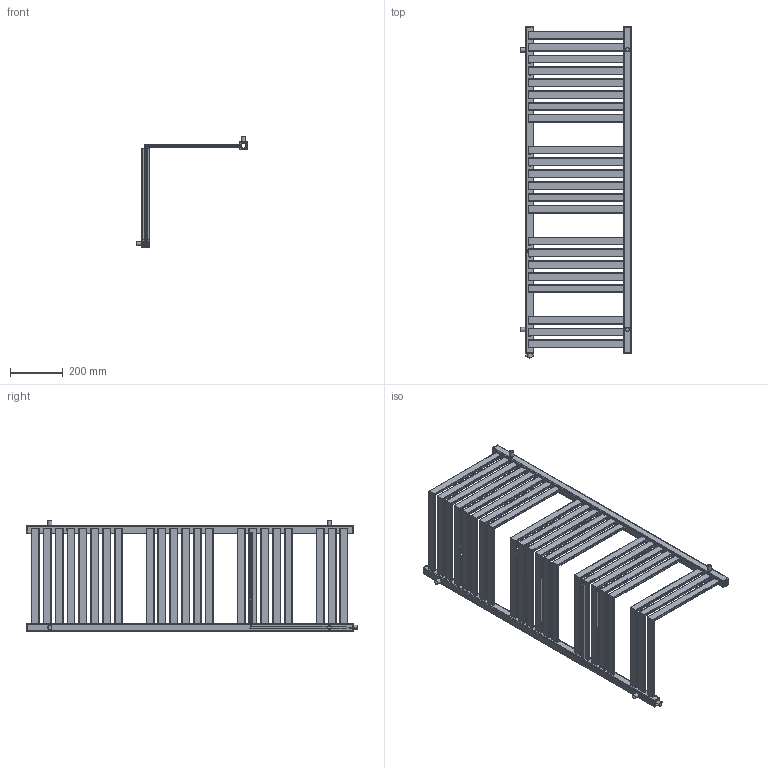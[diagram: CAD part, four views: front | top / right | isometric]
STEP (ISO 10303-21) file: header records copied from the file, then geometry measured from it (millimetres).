
FILE_DESCRIPTION( ( 'Unknown' ), '1' );
FILE_NAME( 'D:/Alplast sp. j/Witryna zespoBu - Projekty/Archiwum/Grzejniki Archiwum/Projekty/DESIGN PROGRAM/CORNER ALFA I BETA/CORNER BETA 5.stp', 'Unknown', ( 'Unknown' ), ( 'Unknown' ), 'PSStep 10.1', 'Unknown', ' ' );
FILE_SCHEMA( ( 'AUTOMOTIVE_DESIGN { 1 0 10303 214 1 1 1 1 }' ) );
Length unit declared in the file: millimetre
Products named in the file (6): kana³ po giêciu; Assem1; kana³y 30x10 czêœæ do giêcia; zaslepka kwadrat otwor; AK5-N; mocowanie
Bounding box: 420 x 1258 x 420 mm (x, y, z)
Volume: 2192784.6 mm3; surface area: 3268065.4 mm2
Topology: 60 solids, 60 shells, 1756 faces, 4925 edges, 3252 vertices
Faces by surface type: plane 975, cylinder 771, torus 10
Full cylindrical faces by diameter (mm): 14 x5, 16 x5, 18.631 x5, 23 x5
Entity records: 10374 total; most frequent: DIRECTION 1491, CARTESIAN_POINT 1460, ORIENTED_EDGE 1390, EDGE_CURVE 695, AXIS2_PLACEMENT_3D 519, VERTEX_POINT 466, LINE 453, VECTOR 453
